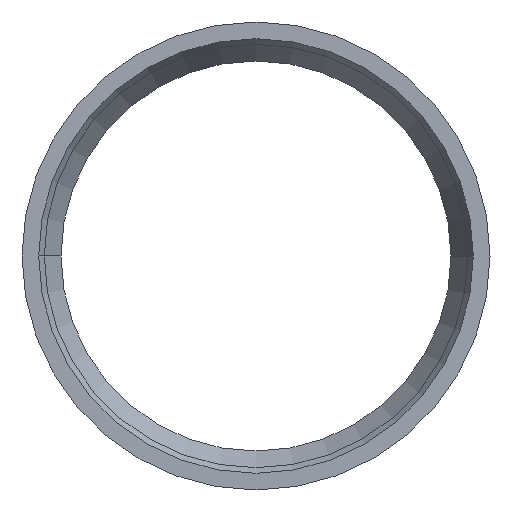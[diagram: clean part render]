
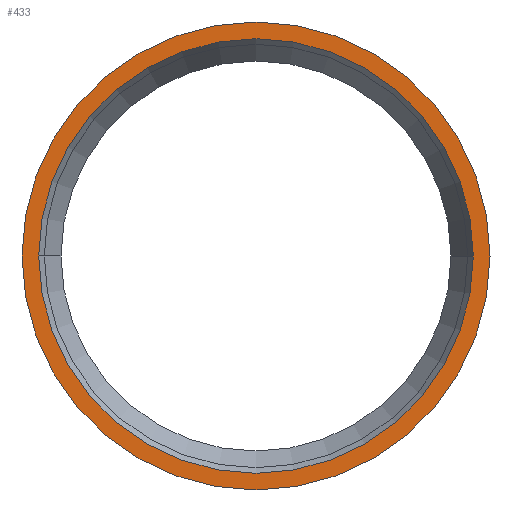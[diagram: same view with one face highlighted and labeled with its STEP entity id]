
A CAD part, left-side view. The second image highlights one B-rep face of the part: STEP entity #433.
In plain terms, the highlighted planar face has unit normal (-1, 0, 0).
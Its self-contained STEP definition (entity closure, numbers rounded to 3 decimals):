
#17 = EDGE_CURVE ( 'NONE', #146, #89, #130, .T. ) ;
#35 = ORIENTED_EDGE ( 'NONE', *, *, #158, .T. ) ;
#38 = VERTEX_POINT ( 'NONE', #159 ) ;
#89 = VERTEX_POINT ( 'NONE', #489 ) ;
#92 = VERTEX_POINT ( 'NONE', #481 ) ;
#128 = EDGE_CURVE ( 'NONE', #89, #146, #407, .T. ) ;
#130 = CIRCLE ( 'NONE', #446, 21. ) ;
#144 = ORIENTED_EDGE ( 'NONE', *, *, #399, .T. ) ;
#146 = VERTEX_POINT ( 'NONE', #329 ) ;
#156 = AXIS2_PLACEMENT_3D ( 'NONE', #400, #388, #385 ) ;
#158 = EDGE_CURVE ( 'NONE', #92, #38, #405, .T. ) ;
#159 = CARTESIAN_POINT ( 'NONE',  ( -748.75, 0., 19.5 ) ) ;
#167 = EDGE_LOOP ( 'NONE', ( #144, #35 ) ) ;
#199 = EDGE_LOOP ( 'NONE', ( #480, #449 ) ) ;
#201 = AXIS2_PLACEMENT_3D ( 'NONE', #421, #420, #419 ) ;
#206 = DIRECTION ( 'NONE',  ( 0., 0., -1. ) ) ;
#251 = DIRECTION ( 'NONE',  ( 0., 0., -1. ) ) ;
#258 = AXIS2_PLACEMENT_3D ( 'NONE', #300, #286, #251 ) ;
#265 = DIRECTION ( 'NONE',  ( 1., 0., 0. ) ) ;
#274 = AXIS2_PLACEMENT_3D ( 'NONE', #325, #352, #346 ) ;
#286 = DIRECTION ( 'NONE',  ( 1., 0., 0. ) ) ;
#296 = CARTESIAN_POINT ( 'NONE',  ( -748.75, 0., 0. ) ) ;
#300 = CARTESIAN_POINT ( 'NONE',  ( -748.75, 0., 0. ) ) ;
#325 = CARTESIAN_POINT ( 'NONE',  ( -748.75, 0., 0. ) ) ;
#329 = CARTESIAN_POINT ( 'NONE',  ( -748.75, 0., -21. ) ) ;
#346 = DIRECTION ( 'NONE',  ( 0., 0., -1. ) ) ;
#349 = FACE_OUTER_BOUND ( 'NONE', #199, .T. ) ;
#352 = DIRECTION ( 'NONE',  ( 1., 0., 0. ) ) ;
#356 = FACE_BOUND ( 'NONE', #167, .T. ) ;
#365 = CIRCLE ( 'NONE', #201, 19.5 ) ;
#385 = DIRECTION ( 'NONE',  ( 0., 0., -1. ) ) ;
#388 = DIRECTION ( 'NONE',  ( 1., 0., 0. ) ) ;
#391 = PLANE ( 'NONE',  #156 ) ;
#399 = EDGE_CURVE ( 'NONE', #38, #92, #365, .T. ) ;
#400 = CARTESIAN_POINT ( 'NONE',  ( -748.75, 0., 0. ) ) ;
#405 = CIRCLE ( 'NONE', #258, 19.5 ) ;
#407 = CIRCLE ( 'NONE', #274, 21. ) ;
#419 = DIRECTION ( 'NONE',  ( 0., 0., -1. ) ) ;
#420 = DIRECTION ( 'NONE',  ( 1., 0., 0. ) ) ;
#421 = CARTESIAN_POINT ( 'NONE',  ( -748.75, 0., 0. ) ) ;
#433 = ADVANCED_FACE ( 'NONE', ( #356, #349 ), #391, .F. ) ;
#446 = AXIS2_PLACEMENT_3D ( 'NONE', #296, #265, #206 ) ;
#449 = ORIENTED_EDGE ( 'NONE', *, *, #17, .F. ) ;
#480 = ORIENTED_EDGE ( 'NONE', *, *, #128, .F. ) ;
#481 = CARTESIAN_POINT ( 'NONE',  ( -748.75, 0., -19.5 ) ) ;
#489 = CARTESIAN_POINT ( 'NONE',  ( -748.75, 0., 21. ) ) ;
